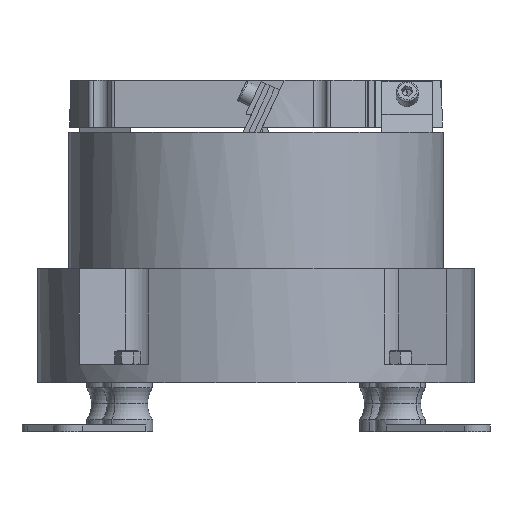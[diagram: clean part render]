
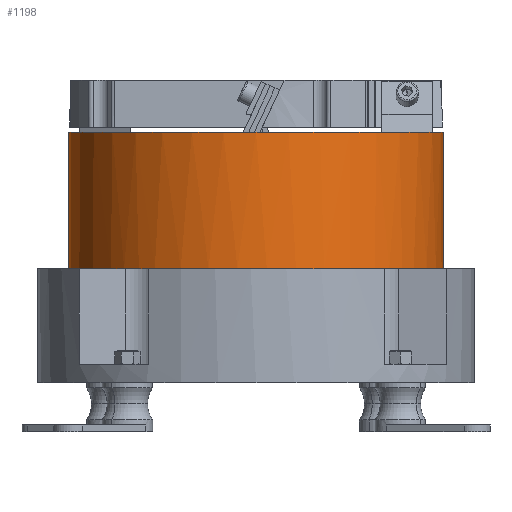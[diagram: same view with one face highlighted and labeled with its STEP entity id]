
A CAD part, front view. The second image highlights one B-rep face of the part: STEP entity #1198.
In plain terms, the highlighted cylindrical face has radius 111.5 mm (diameter 223 mm), a partial arc.
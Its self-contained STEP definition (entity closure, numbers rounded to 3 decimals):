
#972=CYLINDRICAL_SURFACE('',#10417,111.5);
#1198=ADVANCED_FACE('NONE',(#2087),#972,.T.);
#2087=FACE_OUTER_BOUND('',#2608,.T.);
#2608=EDGE_LOOP('',(#3761,#3762,#3763,#3764,#3765,#3766,#3767,#3768));
#3305=CIRCLE('',#10400,111.5);
#3314=CIRCLE('',#10412,111.5);
#3315=CIRCLE('',#10413,111.5);
#3316=CIRCLE('',#10414,111.5);
#3317=CIRCLE('',#10415,111.5);
#3318=CIRCLE('',#10416,111.5);
#3761=ORIENTED_EDGE('',*,*,#7477,.F.);
#3762=ORIENTED_EDGE('',*,*,#7482,.T.);
#3763=ORIENTED_EDGE('',*,*,#7481,.T.);
#3764=ORIENTED_EDGE('',*,*,#7483,.T.);
#3765=ORIENTED_EDGE('',*,*,#7484,.T.);
#3766=ORIENTED_EDGE('',*,*,#7485,.T.);
#3767=ORIENTED_EDGE('',*,*,#7467,.T.);
#3768=ORIENTED_EDGE('',*,*,#7486,.T.);
#6563=VERTEX_POINT('',#14310);
#6565=VERTEX_POINT('',#14313);
#6573=VERTEX_POINT('',#14332);
#6574=VERTEX_POINT('',#14333);
#6575=VERTEX_POINT('',#14335);
#6576=VERTEX_POINT('',#14339);
#6577=VERTEX_POINT('',#14344);
#6578=VERTEX_POINT('',#14346);
#7467=EDGE_CURVE('',#6565,#6563,#3305,.T.);
#7477=EDGE_CURVE('NONE',#6574,#6575,#8879,.T.);
#7481=EDGE_CURVE('NONE',#6573,#6576,#8880,.T.);
#7482=EDGE_CURVE('',#6574,#6573,#3314,.T.);
#7483=EDGE_CURVE('',#6576,#6577,#3315,.T.);
#7484=EDGE_CURVE('NONE',#6577,#6578,#3316,.T.);
#7485=EDGE_CURVE('',#6578,#6565,#3317,.T.);
#7486=EDGE_CURVE('',#6563,#6575,#3318,.T.);
#8879=LINE('',#14334,#9641);
#8880=LINE('',#14340,#9642);
#9641=VECTOR('',#11474,1.);
#9642=VECTOR('',#11481,1.);
#10400=AXIS2_PLACEMENT_3D('',#14312,#11454,#11455);
#10412=AXIS2_PLACEMENT_3D('',#14342,#11484,#11485);
#10413=AXIS2_PLACEMENT_3D('',#14343,#11486,#11487);
#10414=AXIS2_PLACEMENT_3D('',#14345,#11488,#11489);
#10415=AXIS2_PLACEMENT_3D('',#14347,#11490,#11491);
#10416=AXIS2_PLACEMENT_3D('',#14348,#11492,#11493);
#10417=AXIS2_PLACEMENT_3D('',#14349,#11494,#11495);
#11454=DIRECTION('',(0.,0.,1.));
#11455=DIRECTION('',(-1.,0.,0.));
#11474=DIRECTION('',(0.,0.,-1.));
#11481=DIRECTION('',(0.,0.,-1.));
#11484=DIRECTION('',(0.,0.,-1.));
#11485=DIRECTION('',(-1.,0.,0.));
#11486=DIRECTION('',(0.,0.,1.));
#11487=DIRECTION('',(-1.,0.,0.));
#11488=DIRECTION('',(0.,0.,1.));
#11489=DIRECTION('',(-1.,0.,0.));
#11490=DIRECTION('',(0.,0.,1.));
#11491=DIRECTION('',(-1.,0.,0.));
#11492=DIRECTION('',(0.,0.,1.));
#11493=DIRECTION('',(-1.,0.,0.));
#11494=DIRECTION('',(0.,0.,-1.));
#11495=DIRECTION('',(-1.,0.,0.));
#14310=CARTESIAN_POINT('',(12.734,-49.456,-22.));
#14312=CARTESIAN_POINT('',(-81.122,10.738,-22.));
#14313=CARTESIAN_POINT('',(-10.539,-75.578,-22.));
#14332=CARTESIAN_POINT('',(-192.622,10.738,59.));
#14333=CARTESIAN_POINT('',(30.378,10.738,59.));
#14334=CARTESIAN_POINT('',(30.378,10.738,59.));
#14335=CARTESIAN_POINT('',(30.378,10.738,-22.));
#14339=CARTESIAN_POINT('',(-192.622,10.738,-22.));
#14340=CARTESIAN_POINT('',(-192.622,10.738,59.));
#14342=CARTESIAN_POINT('',(-81.122,10.738,59.));
#14343=CARTESIAN_POINT('',(-81.122,10.738,-22.));
#14344=CARTESIAN_POINT('',(-167.437,-59.845,-22.));
#14345=CARTESIAN_POINT('',(-81.122,10.738,-22.));
#14346=CARTESIAN_POINT('',(-141.316,-83.118,-22.));
#14347=CARTESIAN_POINT('',(-81.122,10.738,-22.));
#14348=CARTESIAN_POINT('',(-81.122,10.738,-22.));
#14349=CARTESIAN_POINT('',(-81.122,10.738,59.));
